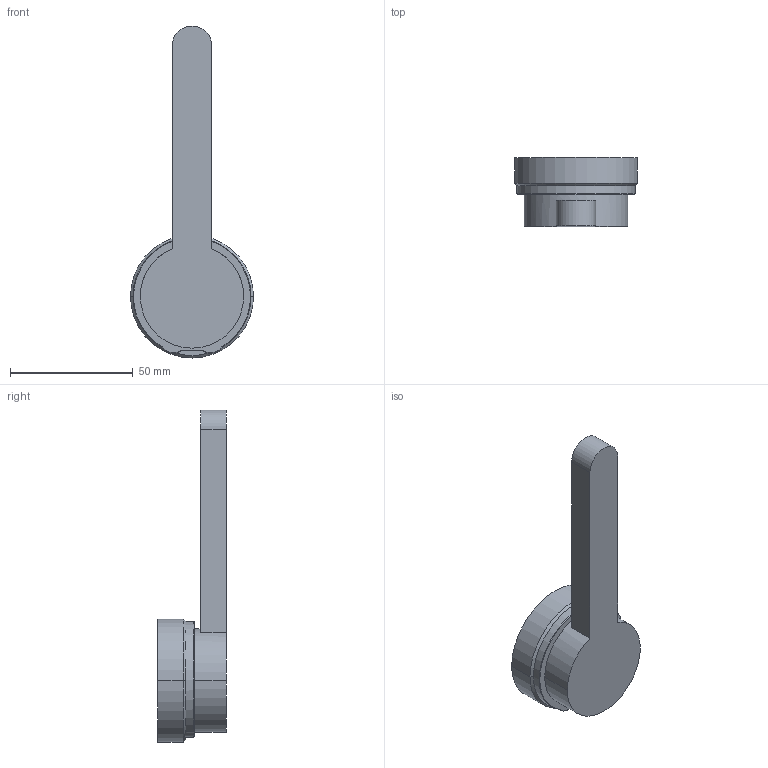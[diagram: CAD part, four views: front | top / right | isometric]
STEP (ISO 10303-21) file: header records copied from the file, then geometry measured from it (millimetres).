
FILE_DESCRIPTION((''),'2;1');
FILE_NAME('EO16_VG-BL_WR_070_COT','2024-02-19T13:20:33',('sundharh'),(''),'CREO PARAMETRIC BY PTC INC, 2023154','CREO PARAMETRIC BY PTC INC, 2023154','');
FILE_SCHEMA(('CONFIG_CONTROL_DESIGN'));
Length unit declared in the file: millimetre
Products named in the file (1): EO16_VG-BL_WR_070_COT
Bounding box: 50 x 28 x 135 mm (x, y, z)
Volume: 61545.4 mm3; surface area: 12510.8 mm2
Topology: 1 solids, 1 shells, 22 faces, 51 edges, 32 vertices
Faces by surface type: cylinder 9, plane 8, torus 3, cone 2
Entity records: 753 total; most frequent: CARTESIAN_POINT 201, DIRECTION 113, ORIENTED_EDGE 102, EDGE_CURVE 51, AXIS2_PLACEMENT_3D 46, VERTEX_POINT 32, CIRCLE 24, EDGE_LOOP 23
